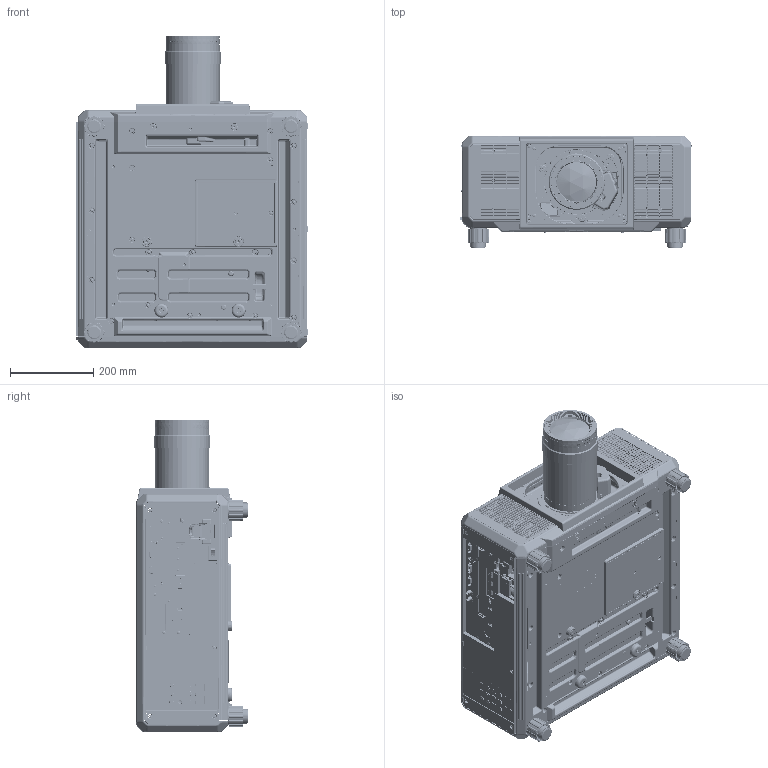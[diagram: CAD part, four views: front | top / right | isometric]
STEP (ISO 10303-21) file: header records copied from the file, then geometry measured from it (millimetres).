
FILE_DESCRIPTION(/* description */ (''),/* implementation_level */ '2;1');
FILE_NAME(/* name */ '01103164_ZA00_RQ25K_D3LET30_FACE.stp',/* time_stamp */ '2022-12-05T10:37:28+09:00',/* author */ (''),/* organization */ (''),/* preprocessor_version */ 'ST-DEVELOPER v16',/* originating_system */ 'SIEMENS PLM Software NX 10.0',/* authorisation */ '');
FILE_SCHEMA (('AUTOMOTIVE_DESIGN { 1 0 10303 214 3 1 1 1 }'));
Products named in the file (1): 01103164_ZA00
Bounding box: 556.3 x 269 x 748.65 mm (x, y, z)
Surface area: 1982669 mm2 (no closed solid volume)
Topology: 0 solids, 2243 shells, 10392 faces, 48526 edges, 39785 vertices
Faces by surface type: plane 5182, cylinder 4069, torus 453, bspline 383, cone 181, sphere 122, extrusion 2
Full cylindrical faces by diameter (mm): 1.02 x2, 3 x1, 3.3 x1, 3.6 x2, 5 x2, 5.5 x2, 6 x2, 7 x2, 8 x2, 9.5 x2, 14.9 x1, 23.647 x1, 37.2 x4, 40 x4, 94.3 x1, 104 x1, 105 x1, 107.5 x1, 109.2 x1, 110 x1, 112.5 x1, 115 x1, 116.6 x1, 117.5 x1, 125.6 x1, 126.2 x1, 126.6 x1, 128.6 x2, 129 x1, 129.6 x3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
Entity records: 604828 total; most frequent: CARTESIAN_POINT 157453, DIRECTION 78289, ORIENTED_EDGE 58421, EDGE_CURVE 48011, VERTEX_POINT 39622, VECTOR 26717, LINE 26715, AXIS2_PLACEMENT_3D 25786
